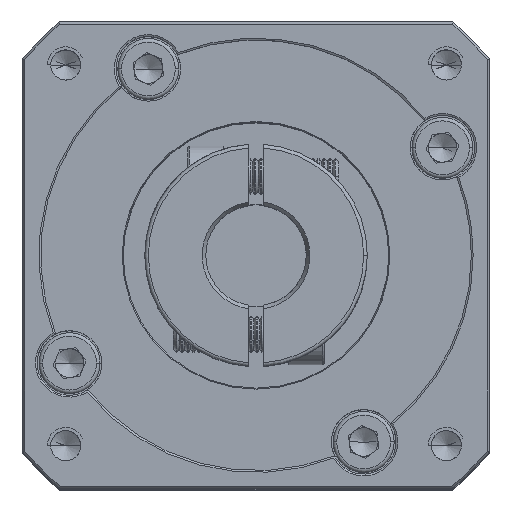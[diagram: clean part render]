
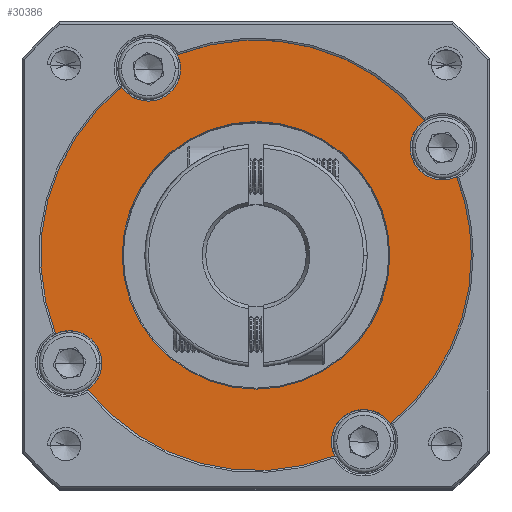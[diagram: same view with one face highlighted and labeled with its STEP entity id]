
A CAD part, top view. The second image highlights one B-rep face of the part: STEP entity #30386.
In plain terms, the highlighted planar face has unit normal (0, 0, 1).
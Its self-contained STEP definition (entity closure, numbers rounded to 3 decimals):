
#285 = CARTESIAN_POINT ( 'NONE',  ( -72.368, 63.331, 31.124 ) ) ;
#398 = DIRECTION ( 'NONE',  ( 1., 0., 0. ) ) ;
#3864 = AXIS2_PLACEMENT_3D ( 'NONE', #89346, #38601, #97836 ) ;
#5270 = VERTEX_POINT ( 'NONE', #285 ) ;
#5713 = DIRECTION ( 'NONE',  ( 1., 0., 0. ) ) ;
#7208 = DIRECTION ( 'NONE',  ( 1., 0., 0. ) ) ;
#8048 = VERTEX_POINT ( 'NONE', #90199 ) ;
#8592 = CARTESIAN_POINT ( 'NONE',  ( -30.206, 58.603, 31.124 ) ) ;
#9179 = CARTESIAN_POINT ( 'NONE',  ( -53.651, 39.886, 31.124 ) ) ;
#9310 = CIRCLE ( 'NONE', #49842, 18.644 ) ;
#9517 = VERTEX_POINT ( 'NONE', #102336 ) ;
#10064 = VERTEX_POINT ( 'NONE', #95530 ) ;
#10132 = CARTESIAN_POINT ( 'NONE',  ( -34.933, 16.441, 31.124 ) ) ;
#10807 = VERTEX_POINT ( 'NONE', #40123 ) ;
#12706 = CARTESIAN_POINT ( 'NONE',  ( -25.719, 50.831, 31.124 ) ) ;
#14218 = CARTESIAN_POINT ( 'NONE',  ( -42.706, 11.954, 31.124 ) ) ;
#15663 = EDGE_CURVE ( 'NONE', #9517, #36995, #55293, .T. ) ;
#15892 = VERTEX_POINT ( 'NONE', #51750 ) ;
#16017 = VERTEX_POINT ( 'NONE', #95353 ) ;
#17385 = FACE_BOUND ( 'NONE', #44480, .T. ) ;
#17541 = EDGE_LOOP ( 'NONE', ( #46730, #61261, #76512, #82283, #65387, #81690, #66092, #106089, #58185, #67354, #75672, #25479, #68968 ) ) ;
#17659 = DIRECTION ( 'NONE',  ( 1., 0., 0. ) ) ;
#20035 = DIRECTION ( 'NONE',  ( 0., 0., 1. ) ) ;
#20216 = DIRECTION ( 'NONE',  ( 0., 0., 1. ) ) ;
#20647 = DIRECTION ( 'NONE',  ( 0., 0., 1. ) ) ;
#21141 = DIRECTION ( 'NONE',  ( 0., 0., 1. ) ) ;
#22630 = DIRECTION ( 'NONE',  ( 0., 0., 1. ) ) ;
#22637 = VERTEX_POINT ( 'NONE', #8592 ) ;
#24857 = DIRECTION ( 'NONE',  ( 0., 0., -1. ) ) ;
#25479 = ORIENTED_EDGE ( 'NONE', *, *, #40618, .T. ) ;
#25767 = CARTESIAN_POINT ( 'NONE',  ( -53.651, 39.886, 31.124 ) ) ;
#26130 = CIRCLE ( 'NONE', #86388, 4.5 ) ;
#29181 = EDGE_CURVE ( 'NONE', #33830, #10807, #90967, .T. ) ;
#29248 = VERTEX_POINT ( 'NONE', #69325 ) ;
#29441 = DIRECTION ( 'NONE',  ( 0., 0., 1. ) ) ;
#30250 = VERTEX_POINT ( 'NONE', #70562 ) ;
#30386 = ADVANCED_FACE ( 'NONE', ( #17385, #42696 ), #72038, .T. ) ;
#32180 = CIRCLE ( 'NONE', #62509, 4.5 ) ;
#33165 = DIRECTION ( 'NONE',  ( 0., 0., 1. ) ) ;
#33830 = VERTEX_POINT ( 'NONE', #10132 ) ;
#34341 = DIRECTION ( 'NONE',  ( 1., 0., 0. ) ) ;
#35450 = AXIS2_PLACEMENT_3D ( 'NONE', #80346, #29441, #88768 ) ;
#36995 = VERTEX_POINT ( 'NONE', #14218 ) ;
#38601 = DIRECTION ( 'NONE',  ( 0., 0., 1. ) ) ;
#39380 = EDGE_CURVE ( 'NONE', #15892, #8048, #9310, .T. ) ;
#39400 = EDGE_CURVE ( 'NONE', #83424, #10064, #74443, .T. ) ;
#40123 = CARTESIAN_POINT ( 'NONE',  ( -23.651, 39.886, 31.124 ) ) ;
#40618 = EDGE_CURVE ( 'NONE', #5270, #10064, #103131, .T. ) ;
#40804 = AXIS2_PLACEMENT_3D ( 'NONE', #75780, #24857, #84277 ) ;
#41851 = EDGE_CURVE ( 'NONE', #10807, #57258, #57468, .T. ) ;
#42696 = FACE_OUTER_BOUND ( 'NONE', #17541, .T. ) ;
#43429 = EDGE_CURVE ( 'NONE', #5270, #74084, #26130, .T. ) ;
#44480 = EDGE_LOOP ( 'NONE', ( #85331, #76869 ) ) ;
#44865 = CARTESIAN_POINT ( 'NONE',  ( -38.651, 13.905, 31.124 ) ) ;
#45349 = CARTESIAN_POINT ( 'NONE',  ( -53.651, 39.886, 31.124 ) ) ;
#46684 = CIRCLE ( 'NONE', #35450, 4.5 ) ;
#46730 = ORIENTED_EDGE ( 'NONE', *, *, #64083, .F. ) ;
#48247 = CIRCLE ( 'NONE', #73408, 4.5 ) ;
#48736 = EDGE_CURVE ( 'NONE', #22637, #29248, #32180, .T. ) ;
#48801 = CIRCLE ( 'NONE', #50602, 4.5 ) ;
#49064 = EDGE_CURVE ( 'NONE', #29248, #57258, #46684, .T. ) ;
#49201 = AXIS2_PLACEMENT_3D ( 'NONE', #73592, #22630, #82099 ) ;
#49842 = AXIS2_PLACEMENT_3D ( 'NONE', #45349, #104577, #53968 ) ;
#50602 = AXIS2_PLACEMENT_3D ( 'NONE', #71587, #20647, #80129 ) ;
#51378 = DIRECTION ( 'NONE',  ( 0., 0., 1. ) ) ;
#51750 = CARTESIAN_POINT ( 'NONE',  ( -35.006, 39.886, 31.124 ) ) ;
#53484 = DIRECTION ( 'NONE',  ( 1., 0., 0. ) ) ;
#53968 = DIRECTION ( 'NONE',  ( 1., 0., 0. ) ) ;
#54430 = EDGE_CURVE ( 'NONE', #33830, #30250, #60240, .T. ) ;
#55293 = CIRCLE ( 'NONE', #104800, 30. ) ;
#55490 = CARTESIAN_POINT ( 'NONE',  ( -75.131, 24.886, 31.124 ) ) ;
#56637 = DIRECTION ( 'NONE',  ( 0., 0., 1. ) ) ;
#57258 = VERTEX_POINT ( 'NONE', #12706 ) ;
#57468 = CIRCLE ( 'NONE', #60016, 30. ) ;
#58127 = DIRECTION ( 'NONE',  ( 0., 0., 1. ) ) ;
#58185 = ORIENTED_EDGE ( 'NONE', *, *, #90503, .T. ) ;
#59563 = CIRCLE ( 'NONE', #62678, 4.5 ) ;
#60016 = AXIS2_PLACEMENT_3D ( 'NONE', #25767, #85149, #34341 ) ;
#60240 = CIRCLE ( 'NONE', #67311, 4.5 ) ;
#61261 = ORIENTED_EDGE ( 'NONE', *, *, #15663, .T. ) ;
#62509 = AXIS2_PLACEMENT_3D ( 'NONE', #102008, #51378, #398 ) ;
#62678 = AXIS2_PLACEMENT_3D ( 'NONE', #84000, #33165, #92436 ) ;
#64083 = EDGE_CURVE ( 'NONE', #9517, #83424, #59563, .T. ) ;
#65387 = ORIENTED_EDGE ( 'NONE', *, *, #29181, .T. ) ;
#66092 = ORIENTED_EDGE ( 'NONE', *, *, #49064, .F. ) ;
#66268 = CARTESIAN_POINT ( 'NONE',  ( -64.151, 65.867, 31.124 ) ) ;
#66821 = AXIS2_PLACEMENT_3D ( 'NONE', #70974, #20035, #79513 ) ;
#67311 = AXIS2_PLACEMENT_3D ( 'NONE', #44865, #104087, #53484 ) ;
#67354 = ORIENTED_EDGE ( 'NONE', *, *, #79266, .F. ) ;
#68567 = DIRECTION ( 'NONE',  ( 0., 0., 1. ) ) ;
#68968 = ORIENTED_EDGE ( 'NONE', *, *, #39400, .F. ) ;
#69096 = AXIS2_PLACEMENT_3D ( 'NONE', #108714, #58127, #7208 ) ;
#69325 = CARTESIAN_POINT ( 'NONE',  ( -32.17, 54.886, 31.124 ) ) ;
#70562 = CARTESIAN_POINT ( 'NONE',  ( -43.151, 13.905, 31.124 ) ) ;
#70974 = CARTESIAN_POINT ( 'NONE',  ( -79.631, 24.886, 31.124 ) ) ;
#71066 = CIRCLE ( 'NONE', #49201, 30. ) ;
#71156 = CARTESIAN_POINT ( 'NONE',  ( -68.651, 65.867, 31.124 ) ) ;
#71587 = CARTESIAN_POINT ( 'NONE',  ( -38.651, 13.905, 31.124 ) ) ;
#72038 = PLANE ( 'NONE',  #3864 ) ;
#72064 = AXIS2_PLACEMENT_3D ( 'NONE', #9179, #68567, #17659 ) ;
#72091 = CARTESIAN_POINT ( 'NONE',  ( -68.651, 65.867, 31.124 ) ) ;
#73408 = AXIS2_PLACEMENT_3D ( 'NONE', #72091, #21141, #80608 ) ;
#73592 = CARTESIAN_POINT ( 'NONE',  ( -53.651, 39.886, 31.124 ) ) ;
#74084 = VERTEX_POINT ( 'NONE', #66268 ) ;
#74443 = CIRCLE ( 'NONE', #66821, 4.5 ) ;
#75672 = ORIENTED_EDGE ( 'NONE', *, *, #43429, .F. ) ;
#75780 = CARTESIAN_POINT ( 'NONE',  ( -53.651, 39.886, 31.124 ) ) ;
#76512 = ORIENTED_EDGE ( 'NONE', *, *, #110033, .F. ) ;
#76869 = ORIENTED_EDGE ( 'NONE', *, *, #99767, .T. ) ;
#79266 = EDGE_CURVE ( 'NONE', #74084, #16017, #48247, .T. ) ;
#79513 = DIRECTION ( 'NONE',  ( 1., 0., 0. ) ) ;
#79699 = DIRECTION ( 'NONE',  ( 1., 0., 0. ) ) ;
#80129 = DIRECTION ( 'NONE',  ( 1., 0., 0. ) ) ;
#80346 = CARTESIAN_POINT ( 'NONE',  ( -27.67, 54.886, 31.124 ) ) ;
#80608 = DIRECTION ( 'NONE',  ( 1., 0., 0. ) ) ;
#81690 = ORIENTED_EDGE ( 'NONE', *, *, #41851, .T. ) ;
#82099 = DIRECTION ( 'NONE',  ( 1., 0., 0. ) ) ;
#82283 = ORIENTED_EDGE ( 'NONE', *, *, #54430, .F. ) ;
#83424 = VERTEX_POINT ( 'NONE', #55490 ) ;
#84000 = CARTESIAN_POINT ( 'NONE',  ( -79.631, 24.886, 31.124 ) ) ;
#84277 = DIRECTION ( 'NONE',  ( 1., 0., 0. ) ) ;
#85149 = DIRECTION ( 'NONE',  ( 0., 0., 1. ) ) ;
#85331 = ORIENTED_EDGE ( 'NONE', *, *, #39380, .T. ) ;
#86388 = AXIS2_PLACEMENT_3D ( 'NONE', #71156, #20216, #79699 ) ;
#88768 = DIRECTION ( 'NONE',  ( 1., 0., 0. ) ) ;
#89346 = CARTESIAN_POINT ( 'NONE',  ( -53.651, 39.886, 31.124 ) ) ;
#90199 = CARTESIAN_POINT ( 'NONE',  ( -72.295, 39.886, 31.124 ) ) ;
#90503 = EDGE_CURVE ( 'NONE', #22637, #16017, #71066, .T. ) ;
#90967 = CIRCLE ( 'NONE', #72064, 30. ) ;
#92436 = DIRECTION ( 'NONE',  ( 1., 0., 0. ) ) ;
#92894 = CIRCLE ( 'NONE', #40804, 18.644 ) ;
#95353 = CARTESIAN_POINT ( 'NONE',  ( -64.596, 67.818, 31.124 ) ) ;
#95530 = CARTESIAN_POINT ( 'NONE',  ( -81.583, 28.941, 31.124 ) ) ;
#97836 = DIRECTION ( 'NONE',  ( 1., 0., 0. ) ) ;
#99767 = EDGE_CURVE ( 'NONE', #8048, #15892, #92894, .T. ) ;
#102008 = CARTESIAN_POINT ( 'NONE',  ( -27.67, 54.886, 31.124 ) ) ;
#102336 = CARTESIAN_POINT ( 'NONE',  ( -77.095, 21.169, 31.124 ) ) ;
#103131 = CIRCLE ( 'NONE', #69096, 30. ) ;
#104087 = DIRECTION ( 'NONE',  ( 0., 0., 1. ) ) ;
#104577 = DIRECTION ( 'NONE',  ( 0., 0., -1. ) ) ;
#104800 = AXIS2_PLACEMENT_3D ( 'NONE', #107250, #56637, #5713 ) ;
#106089 = ORIENTED_EDGE ( 'NONE', *, *, #48736, .F. ) ;
#107250 = CARTESIAN_POINT ( 'NONE',  ( -53.651, 39.886, 31.124 ) ) ;
#108714 = CARTESIAN_POINT ( 'NONE',  ( -53.651, 39.886, 31.124 ) ) ;
#110033 = EDGE_CURVE ( 'NONE', #30250, #36995, #48801, .T. ) ;
